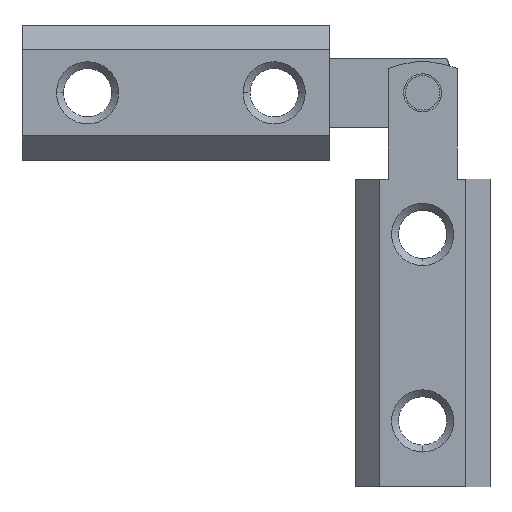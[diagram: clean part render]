
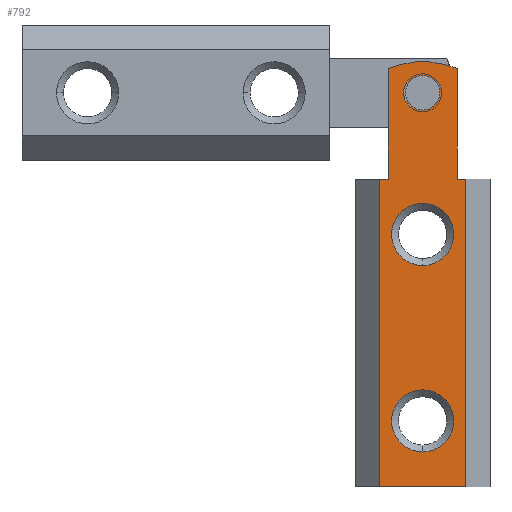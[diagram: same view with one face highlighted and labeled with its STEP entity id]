
A CAD part, front view. The second image highlights one B-rep face of the part: STEP entity #792.
In plain terms, the highlighted planar face has unit normal (0, -1, 0).
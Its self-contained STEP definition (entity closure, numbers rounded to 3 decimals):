
#17 = CARTESIAN_POINT ( 'NONE',  ( -12.964, -6.817, 61.5 ) ) ;
#86 = FACE_BOUND ( 'NONE', #2843, .T. ) ;
#91 = CIRCLE ( 'NONE', #2560, 4.5 ) ;
#105 = EDGE_CURVE ( 'NONE', #1970, #370, #1871, .T. ) ;
#142 = ORIENTED_EDGE ( 'NONE', *, *, #2059, .F. ) ;
#177 = LINE ( 'NONE', #17, #1661 ) ;
#218 = DIRECTION ( 'NONE',  ( -1., 0., 0. ) ) ;
#222 = CARTESIAN_POINT ( 'NONE',  ( -10.464, -6.817, 57. ) ) ;
#288 = CIRCLE ( 'NONE', #1026, 13. ) ;
#300 = CARTESIAN_POINT ( 'NONE',  ( -12.964, -6.817, 44.5 ) ) ;
#314 = FACE_BOUND ( 'NONE', #1555, .T. ) ;
#318 = CARTESIAN_POINT ( 'NONE',  ( -7.964, -6.817, 57. ) ) ;
#322 = CARTESIAN_POINT ( 'NONE',  ( -7.964, -6.817, 48.5 ) ) ;
#370 = VERTEX_POINT ( 'NONE', #2361 ) ;
#372 = DIRECTION ( 'NONE',  ( 0., 0., -1. ) ) ;
#378 = ORIENTED_EDGE ( 'NONE', *, *, #2586, .F. ) ;
#388 = DIRECTION ( 'NONE',  ( 0., -1., 0. ) ) ;
#404 = DIRECTION ( 'NONE',  ( 1., 0., 0. ) ) ;
#444 = EDGE_CURVE ( 'NONE', #2901, #1701, #570, .T. ) ;
#501 = AXIS2_PLACEMENT_3D ( 'NONE', #1241, #2614, #1808 ) ;
#505 = FACE_OUTER_BOUND ( 'NONE', #610, .T. ) ;
#521 = DIRECTION ( 'NONE',  ( 1., 0., 0. ) ) ;
#560 = CARTESIAN_POINT ( 'NONE',  ( -7.964, -6.817, 57. ) ) ;
#570 = LINE ( 'NONE', #1208, #1579 ) ;
#579 = AXIS2_PLACEMENT_3D ( 'NONE', #318, #1380, #2892 ) ;
#588 = CARTESIAN_POINT ( 'NONE',  ( -5.464, -6.817, 57. ) ) ;
#599 = AXIS2_PLACEMENT_3D ( 'NONE', #1598, #388, #1684 ) ;
#610 = EDGE_LOOP ( 'NONE', ( #2227, #2188, #2436, #1586, #378, #1170, #2129, #659 ) ) ;
#614 = VERTEX_POINT ( 'NONE', #2110 ) ;
#653 = EDGE_CURVE ( 'NONE', #1478, #1506, #1159, .T. ) ;
#659 = ORIENTED_EDGE ( 'NONE', *, *, #105, .F. ) ;
#675 = DIRECTION ( 'NONE',  ( 0., 0., -1. ) ) ;
#677 = ORIENTED_EDGE ( 'NONE', *, *, #2500, .T. ) ;
#709 = EDGE_CURVE ( 'NONE', #1008, #614, #1434, .T. ) ;
#746 = CARTESIAN_POINT ( 'NONE',  ( -12.964, -6.817, 60.5 ) ) ;
#762 = CARTESIAN_POINT ( 'NONE',  ( -2.964, -6.817, 60.5 ) ) ;
#792 = ADVANCED_FACE ( 'NONE', ( #314, #505, #86, #1452 ), #862, .T. ) ;
#820 = EDGE_CURVE ( 'NONE', #2649, #1970, #288, .T. ) ;
#862 = PLANE ( 'NONE',  #599 ) ;
#863 = VECTOR ( 'NONE', #1637, 1000. ) ;
#905 = EDGE_CURVE ( 'NONE', #1469, #2260, #2480, .T. ) ;
#955 = CARTESIAN_POINT ( 'NONE',  ( -7.964, -6.817, 36.5 ) ) ;
#959 = ORIENTED_EDGE ( 'NONE', *, *, #709, .T. ) ;
#1008 = VERTEX_POINT ( 'NONE', #2896 ) ;
#1010 = DIRECTION ( 'NONE',  ( 1., 0., 0. ) ) ;
#1026 = AXIS2_PLACEMENT_3D ( 'NONE', #322, #1430, #1010 ) ;
#1065 = CARTESIAN_POINT ( 'NONE',  ( -2.964, -6.817, 61.5 ) ) ;
#1083 = CARTESIAN_POINT ( 'NONE',  ( -1.714, -6.817, 0. ) ) ;
#1159 = CIRCLE ( 'NONE', #579, 2.5 ) ;
#1165 = EDGE_CURVE ( 'NONE', #614, #1008, #2626, .T. ) ;
#1169 = VECTOR ( 'NONE', #675, 1000. ) ;
#1170 = ORIENTED_EDGE ( 'NONE', *, *, #905, .F. ) ;
#1208 = CARTESIAN_POINT ( 'NONE',  ( -1.714, -6.817, 44.5 ) ) ;
#1212 = CARTESIAN_POINT ( 'NONE',  ( -1.714, -6.817, 0. ) ) ;
#1241 = CARTESIAN_POINT ( 'NONE',  ( -7.964, -6.817, 9.5 ) ) ;
#1271 = DIRECTION ( 'NONE',  ( 0., 1., 0. ) ) ;
#1357 = DIRECTION ( 'NONE',  ( 0., 1., 0. ) ) ;
#1380 = DIRECTION ( 'NONE',  ( 0., -1., 0. ) ) ;
#1430 = DIRECTION ( 'NONE',  ( 0., 1., 0. ) ) ;
#1434 = CIRCLE ( 'NONE', #501, 4.5 ) ;
#1444 = CARTESIAN_POINT ( 'NONE',  ( -1.714, -6.817, 44.5 ) ) ;
#1452 = FACE_BOUND ( 'NONE', #2292, .T. ) ;
#1468 = CARTESIAN_POINT ( 'NONE',  ( -14.214, -6.817, 44.5 ) ) ;
#1469 = VERTEX_POINT ( 'NONE', #2712 ) ;
#1478 = VERTEX_POINT ( 'NONE', #222 ) ;
#1506 = VERTEX_POINT ( 'NONE', #588 ) ;
#1507 = VERTEX_POINT ( 'NONE', #2623 ) ;
#1514 = CARTESIAN_POINT ( 'NONE',  ( -7.964, -6.817, 36.5 ) ) ;
#1555 = EDGE_LOOP ( 'NONE', ( #1641, #142 ) ) ;
#1579 = VECTOR ( 'NONE', #218, 1000. ) ;
#1586 = ORIENTED_EDGE ( 'NONE', *, *, #2251, .T. ) ;
#1598 = CARTESIAN_POINT ( 'NONE',  ( -1.714, -6.817, 44.5 ) ) ;
#1637 = DIRECTION ( 'NONE',  ( -1., 0., 0. ) ) ;
#1641 = ORIENTED_EDGE ( 'NONE', *, *, #653, .F. ) ;
#1661 = VECTOR ( 'NONE', #2582, 1000. ) ;
#1684 = DIRECTION ( 'NONE',  ( 1., 0., 0. ) ) ;
#1701 = VERTEX_POINT ( 'NONE', #1468 ) ;
#1796 = VECTOR ( 'NONE', #372, 1000. ) ;
#1802 = DIRECTION ( 'NONE',  ( 0., 1., 0. ) ) ;
#1808 = DIRECTION ( 'NONE',  ( 1., 0., 0. ) ) ;
#1871 = LINE ( 'NONE', #1065, #1796 ) ;
#1934 = AXIS2_PLACEMENT_3D ( 'NONE', #2503, #1271, #404 ) ;
#1970 = VERTEX_POINT ( 'NONE', #762 ) ;
#1999 = EDGE_CURVE ( 'NONE', #1469, #370, #2607, .T. ) ;
#2049 = LINE ( 'NONE', #2539, #2190 ) ;
#2059 = EDGE_CURVE ( 'NONE', #1506, #1478, #2692, .T. ) ;
#2072 = AXIS2_PLACEMENT_3D ( 'NONE', #1514, #1357, #2831 ) ;
#2073 = DIRECTION ( 'NONE',  ( 0., -1., 0. ) ) ;
#2102 = LINE ( 'NONE', #1212, #2213 ) ;
#2110 = CARTESIAN_POINT ( 'NONE',  ( -7.964, -6.817, 5. ) ) ;
#2113 = VERTEX_POINT ( 'NONE', #2406 ) ;
#2129 = ORIENTED_EDGE ( 'NONE', *, *, #1999, .T. ) ;
#2132 = DIRECTION ( 'NONE',  ( -1., 0., 0. ) ) ;
#2153 = EDGE_CURVE ( 'NONE', #1507, #2545, #2683, .T. ) ;
#2188 = ORIENTED_EDGE ( 'NONE', *, *, #2369, .T. ) ;
#2190 = VECTOR ( 'NONE', #2590, 1000. ) ;
#2213 = VECTOR ( 'NONE', #2132, 1000. ) ;
#2227 = ORIENTED_EDGE ( 'NONE', *, *, #820, .F. ) ;
#2251 = EDGE_CURVE ( 'NONE', #1701, #2113, #2049, .T. ) ;
#2260 = VERTEX_POINT ( 'NONE', #1083 ) ;
#2280 = ORIENTED_EDGE ( 'NONE', *, *, #1165, .T. ) ;
#2285 = CARTESIAN_POINT ( 'NONE',  ( -7.964, -6.817, 32. ) ) ;
#2292 = EDGE_LOOP ( 'NONE', ( #677, #2470 ) ) ;
#2361 = CARTESIAN_POINT ( 'NONE',  ( -2.964, -6.817, 44.5 ) ) ;
#2369 = EDGE_CURVE ( 'NONE', #2649, #2901, #177, .T. ) ;
#2401 = CARTESIAN_POINT ( 'NONE',  ( -1.714, -6.817, 44.5 ) ) ;
#2406 = CARTESIAN_POINT ( 'NONE',  ( -14.214, -6.817, 0. ) ) ;
#2436 = ORIENTED_EDGE ( 'NONE', *, *, #444, .T. ) ;
#2470 = ORIENTED_EDGE ( 'NONE', *, *, #2153, .T. ) ;
#2480 = LINE ( 'NONE', #1444, #1169 ) ;
#2500 = EDGE_CURVE ( 'NONE', #2545, #1507, #91, .T. ) ;
#2503 = CARTESIAN_POINT ( 'NONE',  ( -7.964, -6.817, 9.5 ) ) ;
#2539 = CARTESIAN_POINT ( 'NONE',  ( -14.214, -6.817, 44.5 ) ) ;
#2545 = VERTEX_POINT ( 'NONE', #2285 ) ;
#2560 = AXIS2_PLACEMENT_3D ( 'NONE', #955, #1802, #521 ) ;
#2582 = DIRECTION ( 'NONE',  ( 0., 0., -1. ) ) ;
#2586 = EDGE_CURVE ( 'NONE', #2260, #2113, #2102, .T. ) ;
#2590 = DIRECTION ( 'NONE',  ( 0., 0., -1. ) ) ;
#2607 = LINE ( 'NONE', #2401, #863 ) ;
#2614 = DIRECTION ( 'NONE',  ( 0., 1., 0. ) ) ;
#2623 = CARTESIAN_POINT ( 'NONE',  ( -7.964, -6.817, 41. ) ) ;
#2626 = CIRCLE ( 'NONE', #1934, 4.5 ) ;
#2649 = VERTEX_POINT ( 'NONE', #746 ) ;
#2683 = CIRCLE ( 'NONE', #2072, 4.5 ) ;
#2692 = CIRCLE ( 'NONE', #2804, 2.5 ) ;
#2712 = CARTESIAN_POINT ( 'NONE',  ( -1.714, -6.817, 44.5 ) ) ;
#2743 = DIRECTION ( 'NONE',  ( 1., 0., 0. ) ) ;
#2804 = AXIS2_PLACEMENT_3D ( 'NONE', #560, #2073, #2743 ) ;
#2831 = DIRECTION ( 'NONE',  ( 1., 0., 0. ) ) ;
#2843 = EDGE_LOOP ( 'NONE', ( #2280, #959 ) ) ;
#2892 = DIRECTION ( 'NONE',  ( 1., 0., 0. ) ) ;
#2896 = CARTESIAN_POINT ( 'NONE',  ( -7.964, -6.817, 14. ) ) ;
#2901 = VERTEX_POINT ( 'NONE', #300 ) ;
